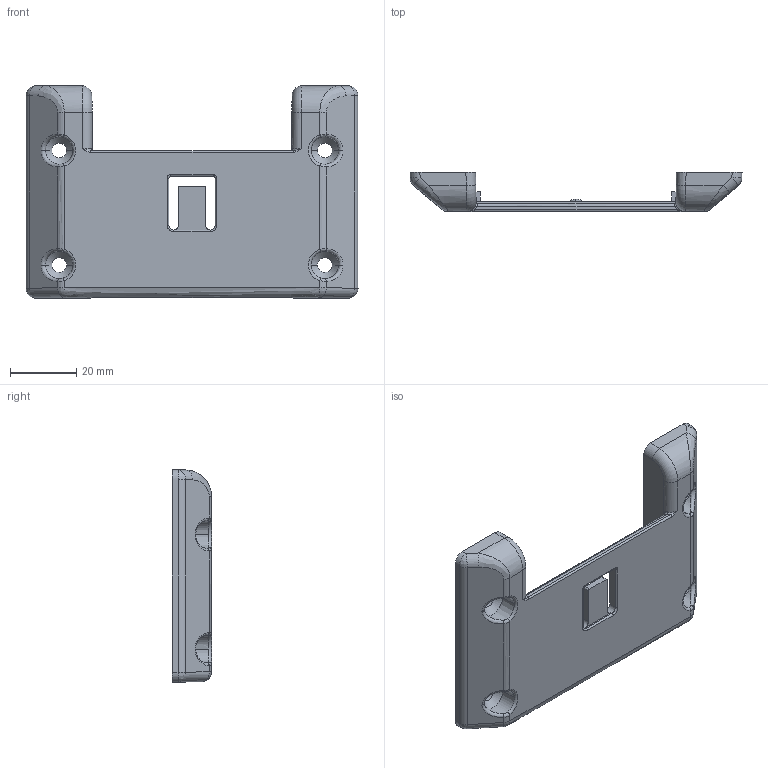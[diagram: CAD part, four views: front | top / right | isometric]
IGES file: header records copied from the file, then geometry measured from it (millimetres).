
Start section:  PTC IGES file: 0622015.igs
Global section: file name: 0622015.igs; native system: Pro/ENGINEER by Parametric Technology Corporation; preprocessor: 2010280; author: MR; organization: Unknown; date: 20111230.021108; units: millimetre
Bounding box: 100 x 11.75 x 64 mm (x, y, z)
Volume: 18491.5 mm3; surface area: 16381.7 mm2
Topology: 1 solids, 1 shells, 249 faces, 619 edges, 355 vertices
Faces by surface type: revolution 137, bspline 112
